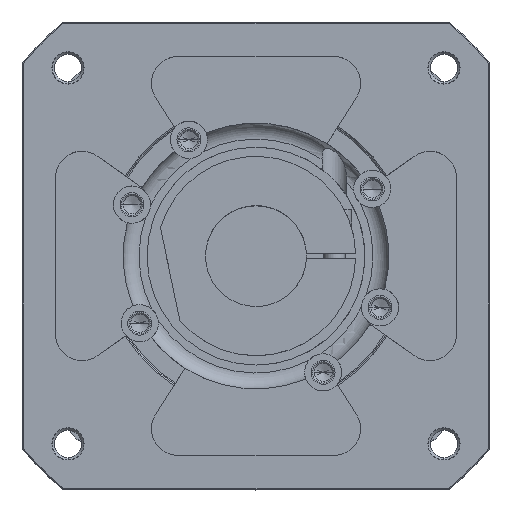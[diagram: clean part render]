
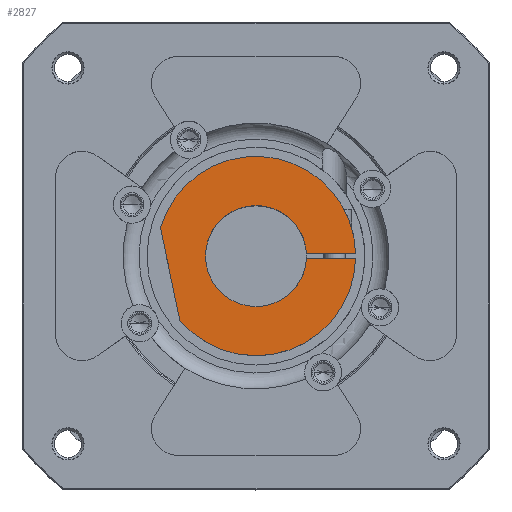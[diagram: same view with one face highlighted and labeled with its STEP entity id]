
A CAD part, top view. The second image highlights one B-rep face of the part: STEP entity #2827.
In plain terms, the highlighted planar face has unit normal (0, 0, 1).
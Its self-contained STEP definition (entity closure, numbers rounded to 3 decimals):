
#897=CARTESIAN_POINT('',(0.,0.,125.5));
#898=DIRECTION('',(0.,0.,1.));
#899=DIRECTION('',(1.,0.027,0.));
#900=AXIS2_PLACEMENT_3D('',#897,#898,#899);
#902=CARTESIAN_POINT('',(0.,0.,125.5));
#903=DIRECTION('',(0.,0.,1.));
#904=DIRECTION('',(-0.764,-0.645,0.));
#905=AXIS2_PLACEMENT_3D('',#902,#903,#904);
#934=DIRECTION('',(-0.205,0.979,0.));
#935=VECTOR('',#934,35.623);
#936=CARTESIAN_POINT('',(-28.643,-24.203,125.5));
#937=LINE('',#936,#935);
#938=DIRECTION('',(-1.,0.,0.));
#939=VECTOR('',#938,18.513);
#940=CARTESIAN_POINT('',(37.487,1.,125.5));
#941=LINE('',#940,#939);
#942=CARTESIAN_POINT('',(0.,0.,125.5));
#943=DIRECTION('',(0.,0.,1.));
#944=DIRECTION('',(0.999,0.053,0.));
#945=AXIS2_PLACEMENT_3D('',#942,#943,#944);
#947=CARTESIAN_POINT('',(0.,0.,125.5));
#948=DIRECTION('',(0.,0.,-1.));
#949=DIRECTION('',(0.,-1.,0.));
#950=AXIS2_PLACEMENT_3D('',#947,#948,#949);
#952=CARTESIAN_POINT('',(0.,0.,125.5));
#953=DIRECTION('',(0.,0.,1.));
#954=DIRECTION('',(0.,-1.,0.));
#955=AXIS2_PLACEMENT_3D('',#952,#953,#954);
#957=DIRECTION('',(-1.,0.,0.));
#958=VECTOR('',#957,18.513);
#959=CARTESIAN_POINT('',(37.487,-1.,125.5));
#960=LINE('',#959,#958);
#1424=CARTESIAN_POINT('',(0.,-19.,125.5));
#1426=VERTEX_POINT('',#1424);
#1428=CARTESIAN_POINT('',(0.,19.,125.5));
#1430=VERTEX_POINT('',#1428);
#1443=CARTESIAN_POINT('',(18.974,-1.,125.5));
#1444=VERTEX_POINT('',#1443);
#1445=CARTESIAN_POINT('',(18.974,1.,125.5));
#1446=VERTEX_POINT('',#1445);
#1447=CARTESIAN_POINT('',(37.487,-1.,125.5));
#1448=VERTEX_POINT('',#1447);
#1449=CARTESIAN_POINT('',(37.487,1.,125.5));
#1450=VERTEX_POINT('',#1449);
#1463=CARTESIAN_POINT('',(-28.643,-24.203,125.5));
#1464=CARTESIAN_POINT('',(-35.952,10.662,125.5));
#1465=VERTEX_POINT('',#1463);
#1466=VERTEX_POINT('',#1464);
#2811=CARTESIAN_POINT('',(0.,0.,125.5));
#2812=DIRECTION('',(0.,0.,1.));
#2813=DIRECTION('',(0.,1.,0.));
#2814=AXIS2_PLACEMENT_3D('',#2811,#2812,#2813);
#2815=PLANE('',#2814);
#2816=ORIENTED_EDGE('',*,*,#2750,.T.);
#2817=ORIENTED_EDGE('',*,*,#2766,.F.);
#2818=ORIENTED_EDGE('',*,*,#2796,.T.);
#2819=ORIENTED_EDGE('',*,*,#2691,.T.);
#2821=ORIENTED_EDGE('',*,*,#2820,.F.);
#2822=ORIENTED_EDGE('',*,*,#2683,.T.);
#2823=ORIENTED_EDGE('',*,*,#2710,.F.);
#2824=ORIENTED_EDGE('',*,*,#2783,.F.);
#2825=EDGE_LOOP('',(#2816,#2817,#2818,#2819,#2821,#2822,#2823,#2824));
#2826=FACE_OUTER_BOUND('',#2825,.F.);
#2827=ADVANCED_FACE('',(#2826),#2815,.T.);
#901=CIRCLE('',#900,37.5);
#906=CIRCLE('',#905,37.5);
#946=CIRCLE('',#945,19.);
#951=CIRCLE('',#950,19.);
#956=CIRCLE('',#955,19.);
#2683=EDGE_CURVE('',#1426,#1444,#956,.T.);
#2691=EDGE_CURVE('',#1446,#1430,#946,.T.);
#2710=EDGE_CURVE('',#1448,#1444,#960,.T.);
#2750=EDGE_CURVE('',#1465,#1466,#937,.T.);
#2766=EDGE_CURVE('',#1450,#1466,#901,.T.);
#2783=EDGE_CURVE('',#1465,#1448,#906,.T.);
#2796=EDGE_CURVE('',#1450,#1446,#941,.T.);
#2820=EDGE_CURVE('',#1426,#1430,#951,.T.);
